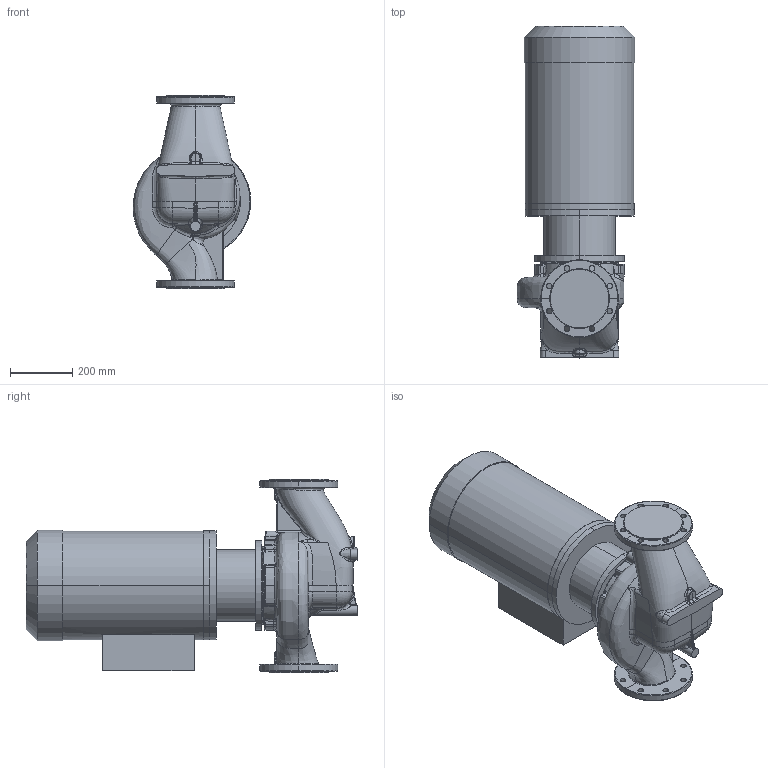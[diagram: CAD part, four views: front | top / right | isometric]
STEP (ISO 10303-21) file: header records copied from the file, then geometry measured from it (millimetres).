
FILE_DESCRIPTION (( 'STEP AP203' ), '1' );
FILE_NAME ('KRL 125-160-2-22.STEP', '2026-04-03T11:55:58', ( '' ), ( '' ), 'SwSTEP 2.0', 'SolidWorks 2016', '' );
FILE_SCHEMA (( 'CONFIG_CONTROL_DESIGN' ));
Length unit declared in the file: millimetre
Products named in the file (1): KRL 125-160-2-22
Bounding box: 377.77 x 1065.8 x 620 mm (x, y, z)
Volume: 97369708.7 mm3; surface area: 2202292.3 mm2
Topology: 4 solids, 4 shells, 621 faces, 1533 edges, 923 vertices
Faces by surface type: bspline 289, cylinder 158, plane 89, torus 41, cone 32, sphere 12
Entity records: 61531 total; most frequent: CARTESIAN_POINT 49341, ORIENTED_EDGE 3038, DIRECTION 1831, EDGE_CURVE 1519, VERTEX_POINT 923, AXIS2_PLACEMENT_3D 783, B_SPLINE_CURVE_WITH_KNOTS 717, EDGE_LOOP 670
